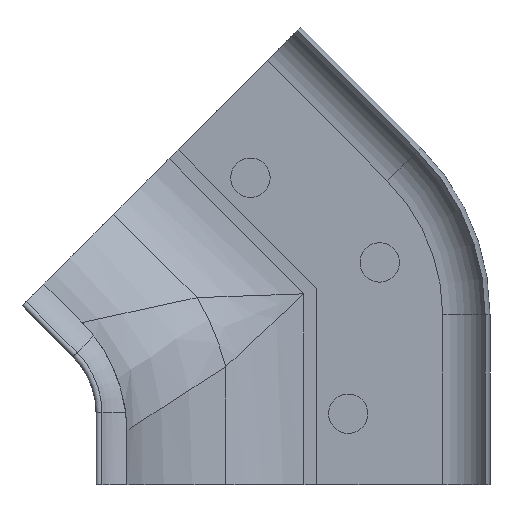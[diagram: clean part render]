
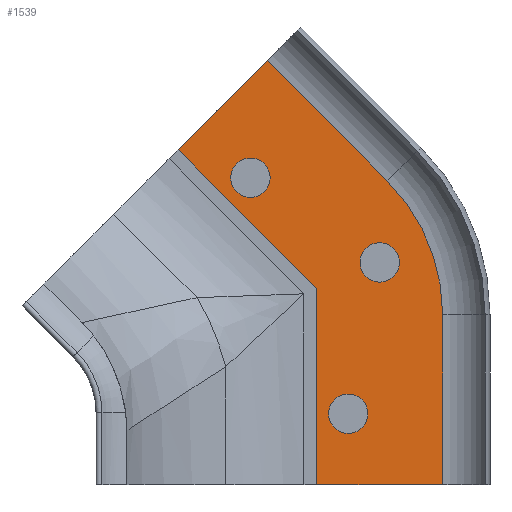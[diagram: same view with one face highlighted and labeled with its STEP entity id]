
A CAD part, front view. The second image highlights one B-rep face of the part: STEP entity #1539.
In plain terms, the highlighted planar face has unit normal (0, -1, 0).
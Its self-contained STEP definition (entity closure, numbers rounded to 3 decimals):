
#7 = VERTEX_POINT ( 'NONE', #455 ) ;
#52 = CARTESIAN_POINT ( 'NONE',  ( -3.005, 0., 0. ) ) ;
#57 = FACE_BOUND ( 'NONE', #293, .T. ) ;
#94 = EDGE_LOOP ( 'NONE', ( #931 ) ) ;
#151 = VERTEX_POINT ( 'NONE', #752 ) ;
#152 = VERTEX_POINT ( 'NONE', #1535 ) ;
#153 = DIRECTION ( 'NONE',  ( 0., 1., 0. ) ) ;
#230 = CARTESIAN_POINT ( 'NONE',  ( -3.005, 0., 10.787 ) ) ;
#237 = DIRECTION ( 'NONE',  ( -0.707, 0., 0.707 ) ) ;
#278 = CARTESIAN_POINT ( 'NONE',  ( -9., 0., 4.5 ) ) ;
#293 = EDGE_LOOP ( 'NONE', ( #448 ) ) ;
#303 = VECTOR ( 'NONE', #1020, 1000. ) ;
#309 = CARTESIAN_POINT ( 'NONE',  ( -15., 0., 10.787 ) ) ;
#310 = ORIENTED_EDGE ( 'NONE', *, *, #570, .T. ) ;
#366 = EDGE_CURVE ( 'NONE', #1140, #583, #1516, .T. ) ;
#367 = DIRECTION ( 'NONE',  ( 0., 1., 0. ) ) ;
#368 = EDGE_LOOP ( 'NONE', ( #1447 ) ) ;
#448 = ORIENTED_EDGE ( 'NONE', *, *, #1303, .T. ) ;
#455 = CARTESIAN_POINT ( 'NONE',  ( -6.518, 0., 19.269 ) ) ;
#512 = CARTESIAN_POINT ( 'NONE',  ( -3.005, 0., 10.787 ) ) ;
#515 = CIRCLE ( 'NONE', #804, 1.25 ) ;
#519 = FACE_BOUND ( 'NONE', #368, .T. ) ;
#526 = CARTESIAN_POINT ( 'NONE',  ( -14.146, 0., 26.896 ) ) ;
#533 = LINE ( 'NONE', #1932, #624 ) ;
#547 = AXIS2_PLACEMENT_3D ( 'NONE', #309, #762, #1850 ) ;
#564 = DIRECTION ( 'NONE',  ( 0., 0., 1. ) ) ;
#570 = EDGE_CURVE ( 'NONE', #813, #1018, #1426, .T. ) ;
#575 = CARTESIAN_POINT ( 'NONE',  ( -15.203, 0., 19.475 ) ) ;
#583 = VERTEX_POINT ( 'NONE', #526 ) ;
#608 = AXIS2_PLACEMENT_3D ( 'NONE', #278, #1940, #1340 ) ;
#624 = VECTOR ( 'NONE', #1772, 1000. ) ;
#651 = CARTESIAN_POINT ( 'NONE',  ( -11., 0., 42.181 ) ) ;
#665 = VECTOR ( 'NONE', #237, 1000. ) ;
#717 = LINE ( 'NONE', #230, #1494 ) ;
#752 = CARTESIAN_POINT ( 'NONE',  ( -7., 0., 15.351 ) ) ;
#762 = DIRECTION ( 'NONE',  ( 0., -1., 0. ) ) ;
#764 = EDGE_CURVE ( 'NONE', #152, #1140, #1008, .T. ) ;
#804 = AXIS2_PLACEMENT_3D ( 'NONE', #930, #153, #1363 ) ;
#813 = VERTEX_POINT ( 'NONE', #1113 ) ;
#924 = EDGE_CURVE ( 'NONE', #152, #813, #533, .T. ) ;
#930 = CARTESIAN_POINT ( 'NONE',  ( -7., 0., 14.101 ) ) ;
#931 = ORIENTED_EDGE ( 'NONE', *, *, #1455, .T. ) ;
#942 = DIRECTION ( 'NONE',  ( 0., 0., 1. ) ) ;
#964 = EDGE_CURVE ( 'NONE', #1166, #1018, #717, .T. ) ;
#968 = CARTESIAN_POINT ( 'NONE',  ( -9., 0., 5.75 ) ) ;
#984 = CARTESIAN_POINT ( 'NONE',  ( -19.799, 0., 21.243 ) ) ;
#992 = LINE ( 'NONE', #1606, #665 ) ;
#1008 = LINE ( 'NONE', #1326, #303 ) ;
#1018 = VERTEX_POINT ( 'NONE', #52 ) ;
#1020 = DIRECTION ( 'NONE',  ( -0.707, 0., 0.707 ) ) ;
#1042 = DIRECTION ( 'NONE',  ( 0.707, 0., 0.707 ) ) ;
#1095 = ORIENTED_EDGE ( 'NONE', *, *, #366, .F. ) ;
#1111 = FACE_OUTER_BOUND ( 'NONE', #1638, .T. ) ;
#1113 = CARTESIAN_POINT ( 'NONE',  ( -11., 0., 0. ) ) ;
#1121 = FACE_BOUND ( 'NONE', #94, .T. ) ;
#1125 = AXIS2_PLACEMENT_3D ( 'NONE', #575, #1335, #564 ) ;
#1140 = VERTEX_POINT ( 'NONE', #984 ) ;
#1147 = ORIENTED_EDGE ( 'NONE', *, *, #1376, .T. ) ;
#1166 = VERTEX_POINT ( 'NONE', #512 ) ;
#1210 = ORIENTED_EDGE ( 'NONE', *, *, #924, .T. ) ;
#1247 = PLANE ( 'NONE',  #1773 ) ;
#1253 = VERTEX_POINT ( 'NONE', #968 ) ;
#1254 = CIRCLE ( 'NONE', #547, 11.995 ) ;
#1257 = CIRCLE ( 'NONE', #608, 1.25 ) ;
#1303 = EDGE_CURVE ( 'NONE', #1517, #1517, #1325, .T. ) ;
#1325 = CIRCLE ( 'NONE', #1125, 1.25 ) ;
#1326 = CARTESIAN_POINT ( 'NONE',  ( 10.028, 0., -8.584 ) ) ;
#1334 = DIRECTION ( 'NONE',  ( 0., 0., -1. ) ) ;
#1335 = DIRECTION ( 'NONE',  ( 0., 1., 0. ) ) ;
#1340 = DIRECTION ( 'NONE',  ( 0., 0., 1. ) ) ;
#1363 = DIRECTION ( 'NONE',  ( 0., 0., 1. ) ) ;
#1376 = EDGE_CURVE ( 'NONE', #1166, #7, #1254, .T. ) ;
#1426 = LINE ( 'NONE', #1916, #1643 ) ;
#1447 = ORIENTED_EDGE ( 'NONE', *, *, #1718, .T. ) ;
#1455 = EDGE_CURVE ( 'NONE', #151, #151, #515, .T. ) ;
#1494 = VECTOR ( 'NONE', #1334, 1000. ) ;
#1505 = CARTESIAN_POINT ( 'NONE',  ( -15.203, 0., 20.725 ) ) ;
#1516 = LINE ( 'NONE', #1957, #1684 ) ;
#1517 = VERTEX_POINT ( 'NONE', #1505 ) ;
#1535 = CARTESIAN_POINT ( 'NONE',  ( -11., 0., 12.444 ) ) ;
#1539 = ADVANCED_FACE ( 'NONE', ( #519, #1121, #57, #1111 ), #1247, .F. ) ;
#1606 = CARTESIAN_POINT ( 'NONE',  ( -6.518, 0., 19.269 ) ) ;
#1638 = EDGE_LOOP ( 'NONE', ( #1970, #1095, #1696, #1210, #310, #1782, #1147 ) ) ;
#1643 = VECTOR ( 'NONE', #1743, 1000. ) ;
#1684 = VECTOR ( 'NONE', #1042, 1000. ) ;
#1696 = ORIENTED_EDGE ( 'NONE', *, *, #764, .F. ) ;
#1718 = EDGE_CURVE ( 'NONE', #1253, #1253, #1257, .T. ) ;
#1743 = DIRECTION ( 'NONE',  ( 1., 0., 0. ) ) ;
#1772 = DIRECTION ( 'NONE',  ( 0., 0., -1. ) ) ;
#1773 = AXIS2_PLACEMENT_3D ( 'NONE', #651, #367, #942 ) ;
#1782 = ORIENTED_EDGE ( 'NONE', *, *, #964, .F. ) ;
#1835 = EDGE_CURVE ( 'NONE', #7, #583, #992, .T. ) ;
#1850 = DIRECTION ( 'NONE',  ( 0., 0., -1. ) ) ;
#1916 = CARTESIAN_POINT ( 'NONE',  ( -11., 0., 0. ) ) ;
#1932 = CARTESIAN_POINT ( 'NONE',  ( -11., 0., 42.181 ) ) ;
#1940 = DIRECTION ( 'NONE',  ( 0., 1., 0. ) ) ;
#1957 = CARTESIAN_POINT ( 'NONE',  ( -19.799, 0., 21.243 ) ) ;
#1970 = ORIENTED_EDGE ( 'NONE', *, *, #1835, .T. ) ;
